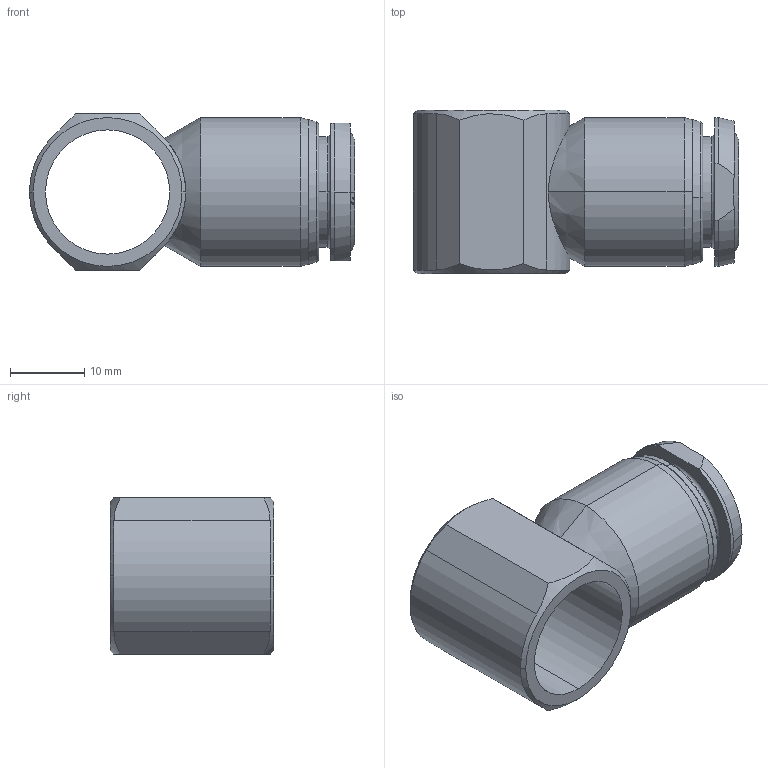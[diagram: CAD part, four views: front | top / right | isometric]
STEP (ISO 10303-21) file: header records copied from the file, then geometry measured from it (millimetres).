
FILE_DESCRIPTION (( 'STEP AP214' ), '1' );
FILE_NAME ('8550000017A.STEP', '2020-05-20T11:32:27', ( 'admin' ), ( '' ), 'SwSTEP 2.0', 'SolidWorks 2016', '' );
FILE_SCHEMA (( 'AUTOMOTIVE_DESIGN' ));
Length unit declared in the file: millimetre
Products named in the file (1): 8550000017A
Bounding box: 43.7 x 22 x 21 mm (x, y, z)
Volume: 6240.5 mm3; surface area: 6313.9 mm2
Topology: 1 solids, 2 shells, 92 faces, 213 edges, 133 vertices
Faces by surface type: cylinder 29, cone 26, plane 19, bspline 12, torus 6
Entity records: 3636 total; most frequent: CARTESIAN_POINT 1543, ORIENTED_EDGE 426, DIRECTION 426, EDGE_CURVE 213, AXIS2_PLACEMENT_3D 176, VERTEX_POINT 133, EDGE_LOOP 104, CIRCLE 95
